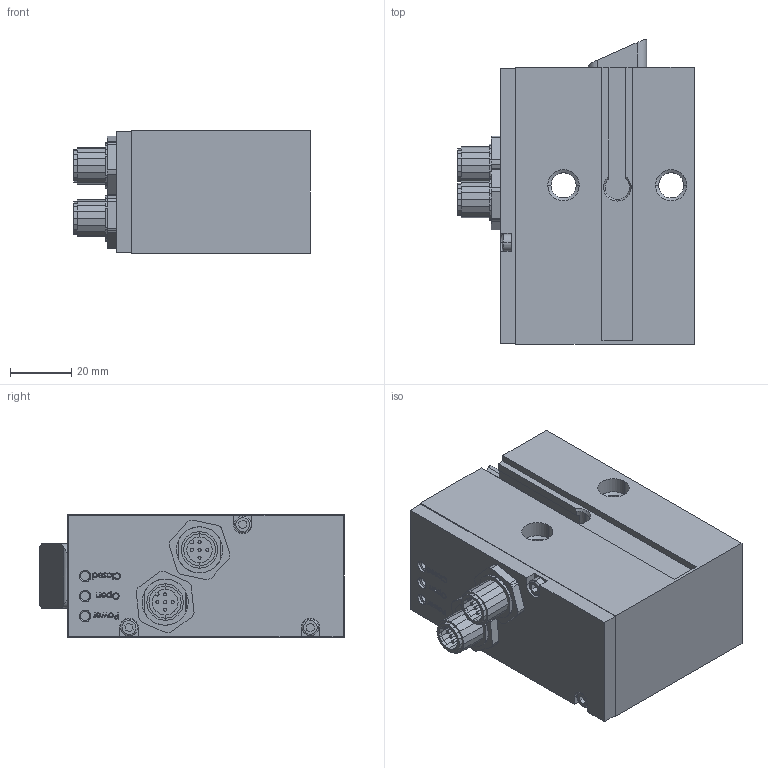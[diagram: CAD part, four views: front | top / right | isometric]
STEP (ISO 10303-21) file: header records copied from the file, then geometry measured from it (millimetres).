
FILE_DESCRIPTION (( 'STEP AP203' ), '1' );
FILE_NAME ('DRE_Elektrische_Rücklaufsperre~1.STEP', '2020-12-01T14:39:32', ( '' ), ( '' ), 'SwSTEP 2.0', 'SolidWorks 2019', '' );
FILE_SCHEMA (( 'CONFIG_CONTROL_DESIGN' ));
Length unit declared in the file: millimetre
Products named in the file (1): DRE_Elektrische_Rücklaufsperre~1
Bounding box: 76.9 x 99 x 40 mm (x, y, z)
Volume: 198532.8 mm3; surface area: 49285.6 mm2
Topology: 26 solids, 31 shells, 861 faces, 2234 edges, 1460 vertices
Faces by surface type: plane 513, cylinder 173, bspline 119, cone 50, torus 6
Entity records: 31913 total; most frequent: CARTESIAN_POINT 11422, ORIENTED_EDGE 4432, DIRECTION 3802, EDGE_CURVE 2216, LINE 1562, VECTOR 1562, VERTEX_POINT 1460, AXIS2_PLACEMENT_3D 1120
